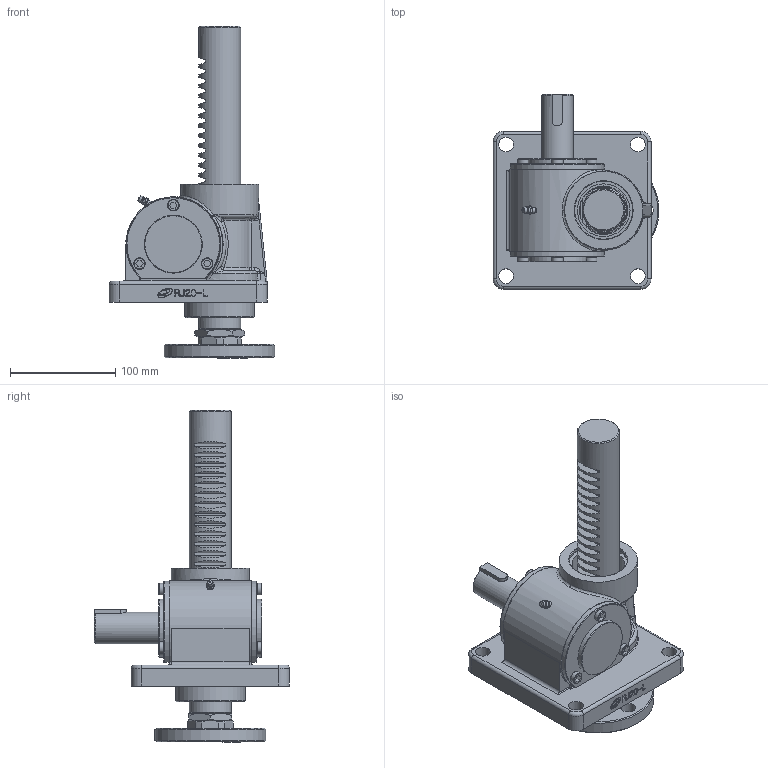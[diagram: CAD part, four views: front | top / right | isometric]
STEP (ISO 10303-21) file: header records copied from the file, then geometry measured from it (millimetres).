
FILE_DESCRIPTION(('STEP AP203'),'1');
FILE_NAME('RJ20UL-150ST.stp','2022-07-05T07:13:35',(' '),(' '),'Spatial InterOp 3D',' ',' ');
FILE_SCHEMA(('CONFIG_CONTROL_DESIGN'));
Length unit declared in the file: millimetre
Products named in the file (26): RJ20UL-150ST; Rack Gear(RJ20); Flange-Part; Flange; Joint; Nut; Body-Part; Nipple; Pinion Gear; Bolt; Shaft; Key; Bearing Cover Open(RJ20); Bearing Cover Close(RJ20); Gear Box(RJ20); RJ05-4SCJ-610X600-100ST_CAP; LABEL-B.1; ___; 파트18; __ 
Assembly tree (25 placements, depth 5):
  RJ20UL-150ST
    Rack Gear(RJ20)
    Flange-Part
      Flange
      Joint
      Nut
    Body-Part
      Nipple
      Pinion Gear
      Bolt
      Bolt
      Bolt
      Bolt
      Bolt
      Bolt
      Shaft
        Key
        Shaft
      Bearing Cover Open(RJ20)
      Bearing Cover Close(RJ20)
      Gear Box(RJ20)
    __ 
      ___
        RJ05-4SCJ-610X600-100ST_CAP
          LABEL-B.1
        파트18
Bounding box: 157.5 x 185.22 x 315 mm (x, y, z)
Volume: 1292482.4 mm3; surface area: 288889.2 mm2
Topology: 24 solids, 24 shells, 2369 faces, 6572 edges, 4301 vertices
Faces by surface type: plane 1769, cylinder 293, torus 108, cone 96, extrusion 52, bspline 36, sphere 8, revolution 7
Full cylindrical faces by diameter (mm): 3.113 x1, 6 x8, 6.6 x1, 8 x6, 9 x6, 11 x6, 14 x8, 28 x1, 30 x3, 30.5 x1, 32 x1, 40 x1, 43 x2, 44 x3, 45 x1, 46 x2, 50 x2, 52 x2, 54 x1, 55 x4, 58 x1, 61.4 x2, 62 x1, 66 x1, 74 x1, 105 x1
Entity records: 80646 total; most frequent: CARTESIAN_POINT 19750, ORIENTED_EDGE 12718, DIRECTION 11533, EDGE_CURVE 6359, VECTOR 5148, LINE 5096, VERTEX_POINT 4231, AXIS2_PLACEMENT_3D 3189
